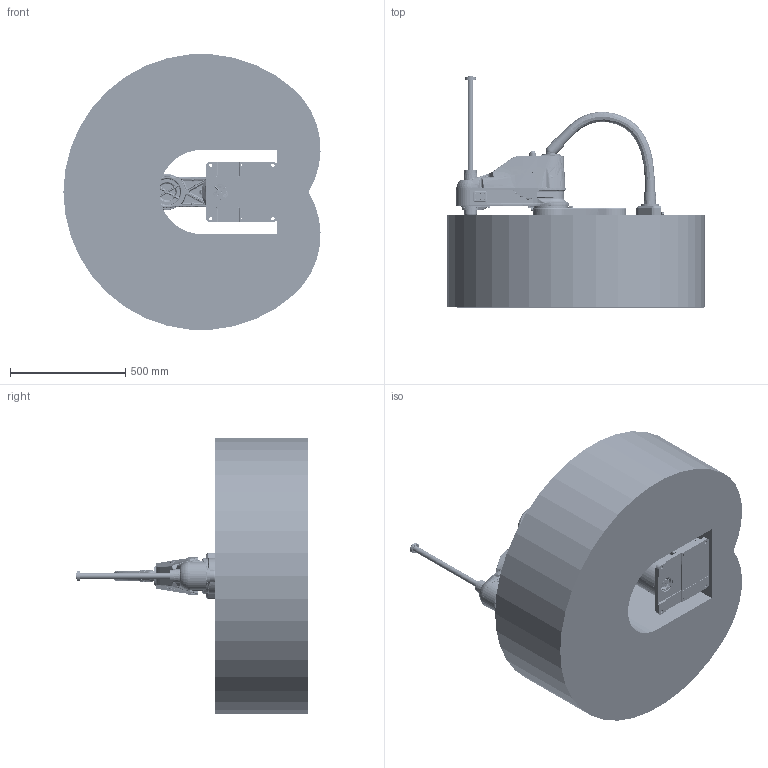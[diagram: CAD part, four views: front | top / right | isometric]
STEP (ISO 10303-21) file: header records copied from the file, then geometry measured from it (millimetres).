
FILE_DESCRIPTION (( 'STEP AP203' ), '1' );
FILE_NAME ('AH10-0600-0204-4000_V1.2.0.STEP', '2022-01-12T02:05:19', ( '' ), ( '' ), 'SwSTEP 2.0', 'SolidWorks 2017', '' );
FILE_SCHEMA (( 'CONFIG_CONTROL_DESIGN' ));
Products named in the file (7): AH10-0600-0204-4000-T6_V1.2.0; AH10-0600-0204-4000_V1.2.0; AH10-0600-0204-4000-T1_V1.2.0; AH10-0600-0204-4000-T3_V1.2.0; AH10-0600-0204-4000-T2_V1.2.0; AH10-0600-0204-4000-T4_V1.2.0; AH10-0600-0204-4000-T5_V1.2.0
Assembly tree (6 placements, depth 2):
  AH10-0600-0204-4000_V1.2.0
    AH10-0600-0204-4000-T1_V1.2.0
    AH10-0600-0204-4000-T3_V1.2.0
    AH10-0600-0204-4000-T2_V1.2.0
    AH10-0600-0204-4000-T4_V1.2.0
    AH10-0600-0204-4000-T5_V1.2.0
    AH10-0600-0204-4000-T6_V1.2.0
Bounding box: 1117.06 x 1004 x 1196.64 mm (x, y, z)
Volume: 369688469.6 mm3; surface area: 7153340.6 mm2
Topology: 93 solids, 495 shells, 22613 faces, 62710 edges, 40429 vertices
Faces by surface type: plane 9810, cylinder 6705, bspline 3102, cone 1936, torus 617, sphere 443
Entity records: 916669 total; most frequent: CARTESIAN_POINT 370209, ORIENTED_EDGE 119285, DIRECTION 100870, EDGE_CURVE 61914, VERTEX_POINT 40407, AXIS2_PLACEMENT_3D 34384, LINE 32102, VECTOR 32102
